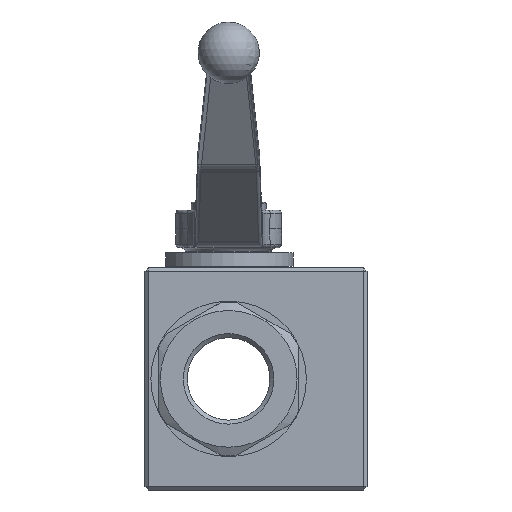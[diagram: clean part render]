
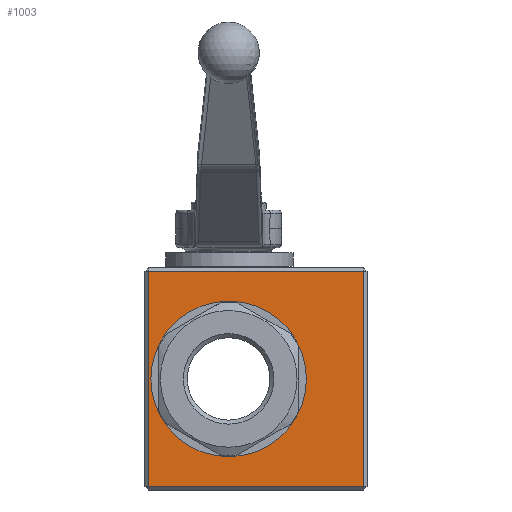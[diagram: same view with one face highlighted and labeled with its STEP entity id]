
A CAD part, front view. The second image highlights one B-rep face of the part: STEP entity #1003.
In plain terms, the highlighted planar face has unit normal (0, -1, 0).
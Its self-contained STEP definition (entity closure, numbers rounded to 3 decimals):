
#1003 = ADVANCED_FACE( '', ( #1975, #1976 ), #1977, .T. );
#1975 = FACE_OUTER_BOUND( '', #3689, .T. );
#1976 = FACE_BOUND( '', #3690, .T. );
#1977 = PLANE( '', #3691 );
#3689 = EDGE_LOOP( '', ( #6017, #6018, #6019, #6020 ) );
#3690 = EDGE_LOOP( '', ( #6021 ) );
#3691 = AXIS2_PLACEMENT_3D( '', #6022, #6023, #6024 );
#6017 = ORIENTED_EDGE( '', *, *, #7034, .T. );
#6018 = ORIENTED_EDGE( '', *, *, #6939, .T. );
#6019 = ORIENTED_EDGE( '', *, *, #7391, .T. );
#6020 = ORIENTED_EDGE( '', *, *, #7203, .T. );
#6021 = ORIENTED_EDGE( '', *, *, #7167, .F. );
#6022 = CARTESIAN_POINT( '', ( -24.5, -31.1, -32.5 ) );
#6023 = DIRECTION( '', ( 0., -1., 0. ) );
#6024 = DIRECTION( '', ( 0., 0., -1. ) );
#6939 = EDGE_CURVE( '', #8180, #8206, #8208, .T. );
#7034 = EDGE_CURVE( '', #8352, #8180, #8353, .T. );
#7167 = EDGE_CURVE( '', #8552, #8552, #8553, .T. );
#7203 = EDGE_CURVE( '', #8184, #8352, #8606, .T. );
#7391 = EDGE_CURVE( '', #8206, #8184, #8849, .T. );
#8180 = VERTEX_POINT( '', #10858 );
#8184 = VERTEX_POINT( '', #10864 );
#8206 = VERTEX_POINT( '', #10903 );
#8208 = LINE( '', #10906, #10907 );
#8352 = VERTEX_POINT( '', #11391 );
#8353 = LINE( '', #11392, #11393 );
#8552 = VERTEX_POINT( '', #11902 );
#8553 = CIRCLE( '', #11903, 22.75 );
#8606 = LINE( '', #12019, #12020 );
#8849 = LINE( '', #12688, #12689 );
#10858 = CARTESIAN_POINT( '', ( 39.5, -31.1, -31.5 ) );
#10864 = CARTESIAN_POINT( '', ( -23.5, -31.1, 31.5 ) );
#10903 = CARTESIAN_POINT( '', ( 39.5, -31.1, 31.5 ) );
#10906 = CARTESIAN_POINT( '', ( 39.5, -31.1, 32.5 ) );
#10907 = VECTOR( '', #13535, 1000. );
#11391 = CARTESIAN_POINT( '', ( -23.5, -31.1, -31.5 ) );
#11392 = CARTESIAN_POINT( '', ( 40.5, -31.1, -31.5 ) );
#11393 = VECTOR( '', #13620, 1000. );
#11902 = CARTESIAN_POINT( '', ( 22.75, -31.1, 0. ) );
#11903 = AXIS2_PLACEMENT_3D( '', #13748, #13749, #13750 );
#12019 = CARTESIAN_POINT( '', ( -23.5, -31.1, -32.5 ) );
#12020 = VECTOR( '', #13789, 1000. );
#12688 = CARTESIAN_POINT( '', ( -24.5, -31.1, 31.5 ) );
#12689 = VECTOR( '', #13955, 1000. );
#13535 = DIRECTION( '', ( 0., 0., 1. ) );
#13620 = DIRECTION( '', ( 1., 0., 0. ) );
#13748 = CARTESIAN_POINT( '', ( 0., -31.1, 0. ) );
#13749 = DIRECTION( '', ( 0., -1., 0. ) );
#13750 = DIRECTION( '', ( 1., 0., 0. ) );
#13789 = DIRECTION( '', ( 0., 0., -1. ) );
#13955 = DIRECTION( '', ( -1., 0., 0. ) );
